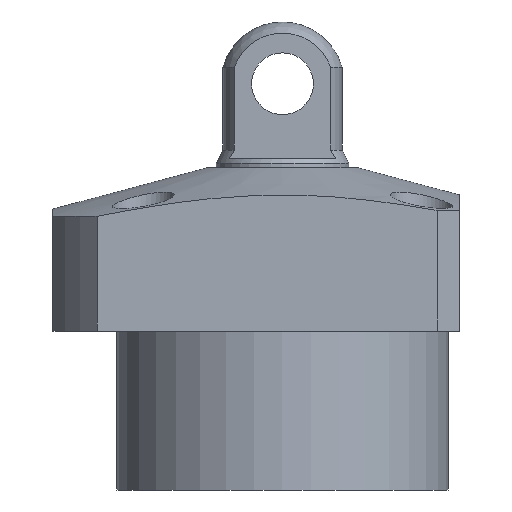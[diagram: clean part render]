
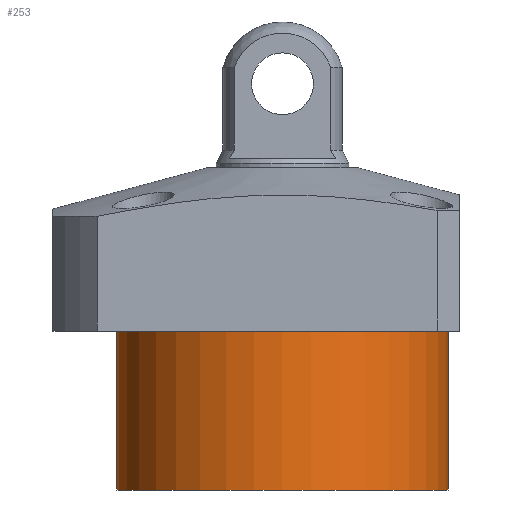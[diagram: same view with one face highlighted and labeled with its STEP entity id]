
A CAD part, front view. The second image highlights one B-rep face of the part: STEP entity #253.
In plain terms, the highlighted cylindrical face has radius 37.5 mm (diameter 75 mm), a partial arc.
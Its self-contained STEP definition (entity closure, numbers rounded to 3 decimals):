
#5 = ORIENTED_EDGE ( 'NONE', *, *, #34, .T. ) ;
#34 = EDGE_CURVE ( 'NONE', #1850, #1761, #524, .T. ) ;
#144 = DIRECTION ( 'NONE',  ( 1., 0., 0. ) ) ;
#154 = VERTEX_POINT ( 'NONE', #1231 ) ;
#209 = AXIS2_PLACEMENT_3D ( 'NONE', #2393, #2050, #387 ) ;
#253 = ADVANCED_FACE ( 'NONE', ( #2040 ), #604, .T. ) ;
#292 = CARTESIAN_POINT ( 'NONE',  ( 37.5, 0., -18.5 ) ) ;
#302 = CARTESIAN_POINT ( 'NONE',  ( 0., 0., -18.5 ) ) ;
#308 = CARTESIAN_POINT ( 'NONE',  ( -37.5, 0., -54.5 ) ) ;
#387 = DIRECTION ( 'NONE',  ( 1., 0., 0. ) ) ;
#414 = CIRCLE ( 'NONE', #1635, 37.5 ) ;
#456 = AXIS2_PLACEMENT_3D ( 'NONE', #989, #1171, #1892 ) ;
#524 = LINE ( 'NONE', #1025, #1501 ) ;
#604 = CYLINDRICAL_SURFACE ( 'NONE', #209, 37.5 ) ;
#859 = DIRECTION ( 'NONE',  ( 0., 0., -1. ) ) ;
#953 = EDGE_CURVE ( 'NONE', #1081, #154, #1328, .T. ) ;
#989 = CARTESIAN_POINT ( 'NONE',  ( 0., 0., -54.5 ) ) ;
#1016 = DIRECTION ( 'NONE',  ( 0., 0., 1. ) ) ;
#1025 = CARTESIAN_POINT ( 'NONE',  ( 37.5, 0., -54.5 ) ) ;
#1081 = VERTEX_POINT ( 'NONE', #308 ) ;
#1105 = EDGE_CURVE ( 'NONE', #1761, #154, #414, .T. ) ;
#1160 = CARTESIAN_POINT ( 'NONE',  ( -37.5, 0., -54.5 ) ) ;
#1171 = DIRECTION ( 'NONE',  ( 0., 0., -1. ) ) ;
#1190 = ORIENTED_EDGE ( 'NONE', *, *, #1354, .F. ) ;
#1231 = CARTESIAN_POINT ( 'NONE',  ( -37.5, 0., -18.5 ) ) ;
#1328 = LINE ( 'NONE', #1160, #2347 ) ;
#1354 = EDGE_CURVE ( 'NONE', #1850, #1081, #1384, .T. ) ;
#1384 = CIRCLE ( 'NONE', #456, 37.5 ) ;
#1501 = VECTOR ( 'NONE', #1016, 1000. ) ;
#1512 = ORIENTED_EDGE ( 'NONE', *, *, #1105, .T. ) ;
#1635 = AXIS2_PLACEMENT_3D ( 'NONE', #302, #859, #144 ) ;
#1761 = VERTEX_POINT ( 'NONE', #292 ) ;
#1850 = VERTEX_POINT ( 'NONE', #2345 ) ;
#1892 = DIRECTION ( 'NONE',  ( -1., 0., 0. ) ) ;
#1953 = DIRECTION ( 'NONE',  ( 0., 0., 1. ) ) ;
#2040 = FACE_OUTER_BOUND ( 'NONE', #2093, .T. ) ;
#2050 = DIRECTION ( 'NONE',  ( 0., 0., 1. ) ) ;
#2093 = EDGE_LOOP ( 'NONE', ( #2094, #1190, #5, #1512 ) ) ;
#2094 = ORIENTED_EDGE ( 'NONE', *, *, #953, .F. ) ;
#2345 = CARTESIAN_POINT ( 'NONE',  ( 37.5, 0., -54.5 ) ) ;
#2347 = VECTOR ( 'NONE', #1953, 1000. ) ;
#2393 = CARTESIAN_POINT ( 'NONE',  ( 0., 0., -54.5 ) ) ;
